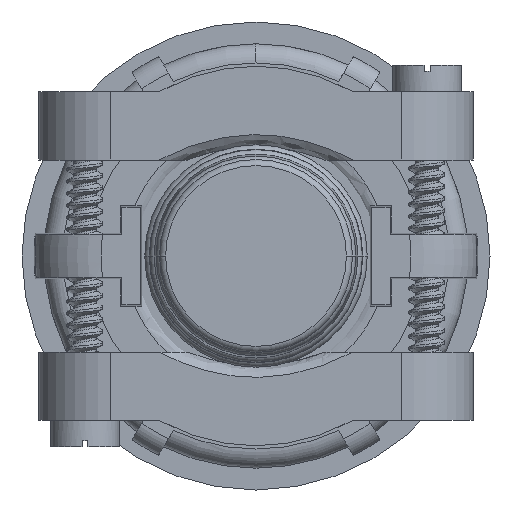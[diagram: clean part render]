
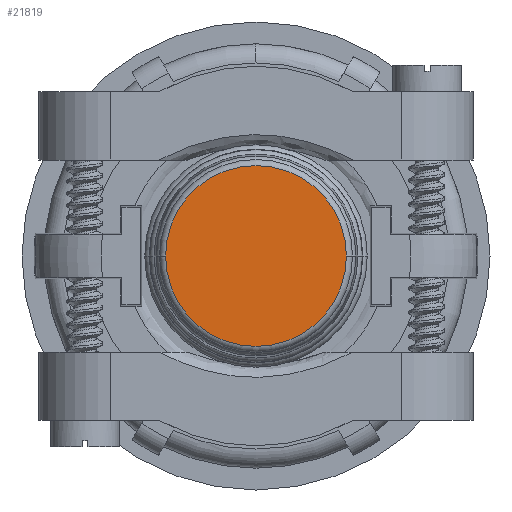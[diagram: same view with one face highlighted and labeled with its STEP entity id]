
A CAD part, front view. The second image highlights one B-rep face of the part: STEP entity #21819.
In plain terms, the highlighted planar face has unit normal (0, -1, 0) as drawn and (0, 1, 0) by its records, which use the part's own axes.
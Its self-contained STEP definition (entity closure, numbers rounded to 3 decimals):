
#21584=CARTESIAN_POINT('',(0.,62.7,0.));
#21585=DIRECTION('',(0.,-1.,0.));
#21586=DIRECTION('',(-1.,0.,0.));
#21587=AXIS2_PLACEMENT_3D('',#21584,#21585,#21586);
#21589=CARTESIAN_POINT('',(0.,62.7,0.));
#21590=DIRECTION('',(0.,1.,0.));
#21591=DIRECTION('',(-1.,0.,0.));
#21592=AXIS2_PLACEMENT_3D('',#21589,#21590,#21591);
#21764=CARTESIAN_POINT('',(-7.537,62.7,0.));
#21766=VERTEX_POINT('',#21764);
#21786=CARTESIAN_POINT('',(7.537,62.7,0.));
#21788=VERTEX_POINT('',#21786);
#21808=CARTESIAN_POINT('',(0.,62.7,0.));
#21809=DIRECTION('',(0.,1.,0.));
#21810=DIRECTION('',(1.,0.,0.));
#21811=AXIS2_PLACEMENT_3D('',#21808,#21809,#21810);
#21812=PLANE('',#21811);
#21814=ORIENTED_EDGE('',*,*,#21813,.T.);
#21816=ORIENTED_EDGE('',*,*,#21815,.F.);
#21817=EDGE_LOOP('',(#21814,#21816));
#21818=FACE_OUTER_BOUND('',#21817,.F.);
#21588=CIRCLE('',#21587,7.537);
#21593=CIRCLE('',#21592,7.537);
#21813=EDGE_CURVE('',#21766,#21788,#21588,.T.);
#21815=EDGE_CURVE('',#21766,#21788,#21593,.T.);
#21819=ADVANCED_FACE('',(#21818),#21812,.T.);
